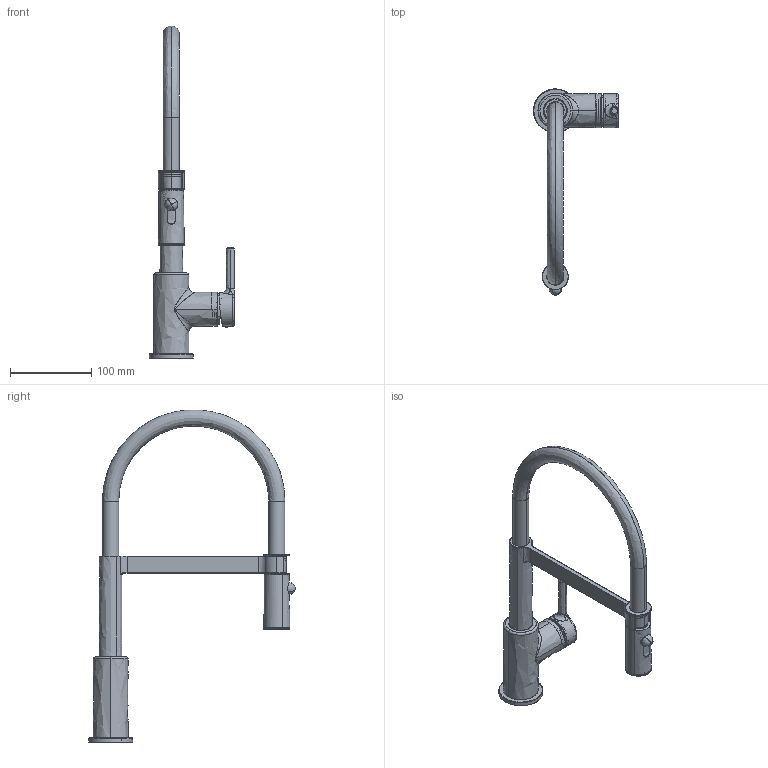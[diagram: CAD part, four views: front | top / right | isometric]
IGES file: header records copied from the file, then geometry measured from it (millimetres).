
Global section: file name: F:\_CONVERSIONE_CAD_2024_2025\PACCHETTI_2026\NUOVI_PACCHETTI_LUGLIO\PRIORITY_3\3D001_Taps_Lina_Semi-Pro\3D001_Taps_Lina_Semi-Pro.igs; native system: Rhinoceros ( May  6 2026 ); preprocessor: Trout Lake IGES 012 May  6 2026; date: 260805.145804; units: millimetre
Bounding box: 104.96 x 254.75 x 409.65 mm (x, y, z)
Surface area: 163166 mm2 (no closed solid volume)
Topology: 0 solids, 0 shells, 1583 faces, 11089 edges, 11076 vertices
Faces by surface type: bspline 1583
